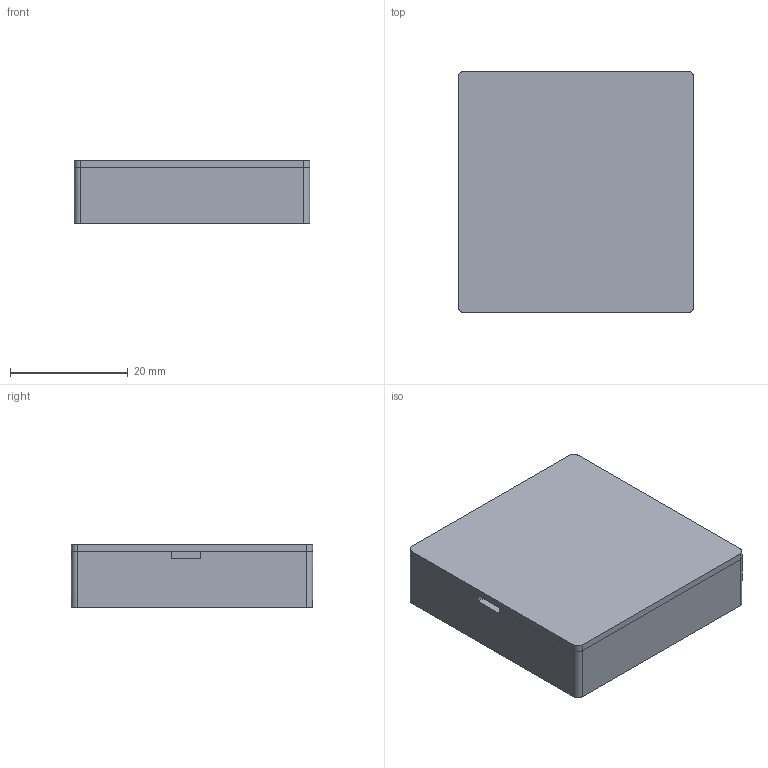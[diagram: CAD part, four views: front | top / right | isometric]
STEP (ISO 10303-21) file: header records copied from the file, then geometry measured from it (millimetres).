
FILE_DESCRIPTION(('SolidCraft model'),'2;1');
FILE_NAME('assembled.step','',(''),(''),'SolidCraft','SolidCraft','');
FILE_SCHEMA(('AP242_MANAGED_MODEL_BASED_3D_ENGINEERING_MIM_LF { 1 0 10303 442 1 1 4 }'));
Length unit declared in the file: millimetre
Products named in the file (1): assembled
Bounding box: 40 x 41 x 10.8 mm (x, y, z)
Volume: 8660.9 mm3; surface area: 13159.5 mm2
Topology: 5 solids, 5 shells, 483 faces, 1170 edges, 780 vertices
Faces by surface type: plane 475, cylinder 8
Entity records: 10026 total; most frequent: ORIENTED_EDGE 2340, EDGE_CURVE 1170, LINE 1154, CARTESIAN_POINT 1023, VERTEX_POINT 780, VECTOR 628, EDGE_LOOP 568, FACE_BOUND 568
